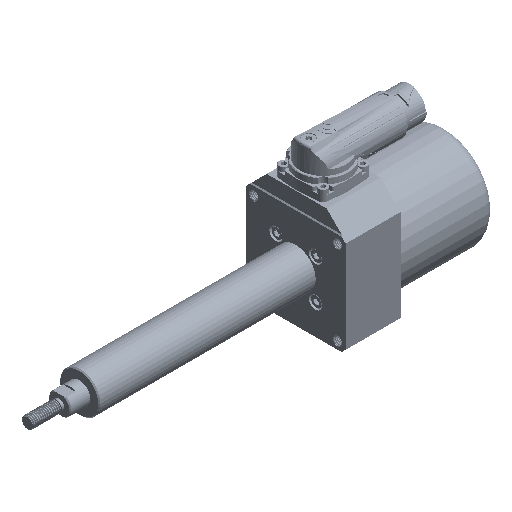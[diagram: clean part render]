
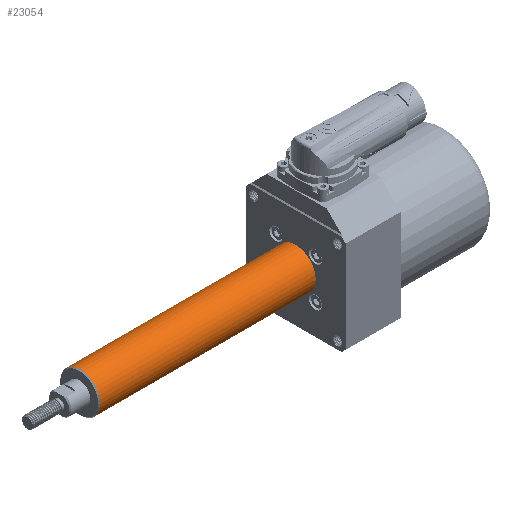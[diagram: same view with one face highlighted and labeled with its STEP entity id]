
A CAD part, isometric view. The second image highlights one B-rep face of the part: STEP entity #23054.
In plain terms, the highlighted cylindrical face has radius 10 mm (diameter 20 mm), a full revolution.
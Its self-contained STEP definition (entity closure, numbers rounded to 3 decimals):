
#2480=FACE_OUTER_BOUND('',#3941,.T.);
#3941=EDGE_LOOP('',(#20306,#20307,#20308,#20309,#20310));
#5723=CIRCLE('',#25045,10.);
#5724=CIRCLE('',#25046,10.);
#5725=CIRCLE('',#25048,10.);
#7246=LINE('',#59974,#8786);
#8786=VECTOR('',#30363,10.);
#11020=VERTEX_POINT('',#59967);
#11021=VERTEX_POINT('',#59969);
#11022=VERTEX_POINT('',#59973);
#14311=EDGE_CURVE('',#11020,#11021,#5723,.T.);
#14312=EDGE_CURVE('',#11021,#11020,#5724,.T.);
#14313=EDGE_CURVE('',#11021,#11022,#7246,.T.);
#14314=EDGE_CURVE('',#11022,#11022,#5725,.T.);
#20306=ORIENTED_EDGE('',*,*,#14311,.F.);
#20307=ORIENTED_EDGE('',*,*,#14312,.F.);
#20308=ORIENTED_EDGE('',*,*,#14313,.T.);
#20309=ORIENTED_EDGE('',*,*,#14314,.F.);
#20310=ORIENTED_EDGE('',*,*,#14313,.F.);
#21795=CYLINDRICAL_SURFACE('',#25047,10.);
#23054=ADVANCED_FACE('',(#2480),#21795,.T.);
#25045=AXIS2_PLACEMENT_3D('',#59970,#30357,#30358);
#25046=AXIS2_PLACEMENT_3D('',#59971,#30359,#30360);
#25047=AXIS2_PLACEMENT_3D('',#59972,#30361,#30362);
#25048=AXIS2_PLACEMENT_3D('',#59975,#30364,#30365);
#30357=DIRECTION('center_axis',(-1.,0.,0.));
#30358=DIRECTION('ref_axis',(0.,0.,-1.));
#30359=DIRECTION('center_axis',(-1.,0.,0.));
#30360=DIRECTION('ref_axis',(0.,0.,-1.));
#30361=DIRECTION('center_axis',(-1.,0.,0.));
#30362=DIRECTION('ref_axis',(0.,0.,1.));
#30363=DIRECTION('',(1.,0.,0.));
#30364=DIRECTION('center_axis',(1.,0.,0.));
#30365=DIRECTION('ref_axis',(0.,0.,1.));
#59967=CARTESIAN_POINT('',(-107.8,0.,10.));
#59969=CARTESIAN_POINT('',(-107.8,0.,-10.));
#59970=CARTESIAN_POINT('Origin',(-107.8,0.,0.));
#59971=CARTESIAN_POINT('Origin',(-107.8,0.,0.));
#59972=CARTESIAN_POINT('Origin',(-54.15,0.,0.));
#59973=CARTESIAN_POINT('',(0.,0.,-10.));
#59974=CARTESIAN_POINT('',(-54.15,0.,-10.));
#59975=CARTESIAN_POINT('Origin',(0.,0.,0.));
